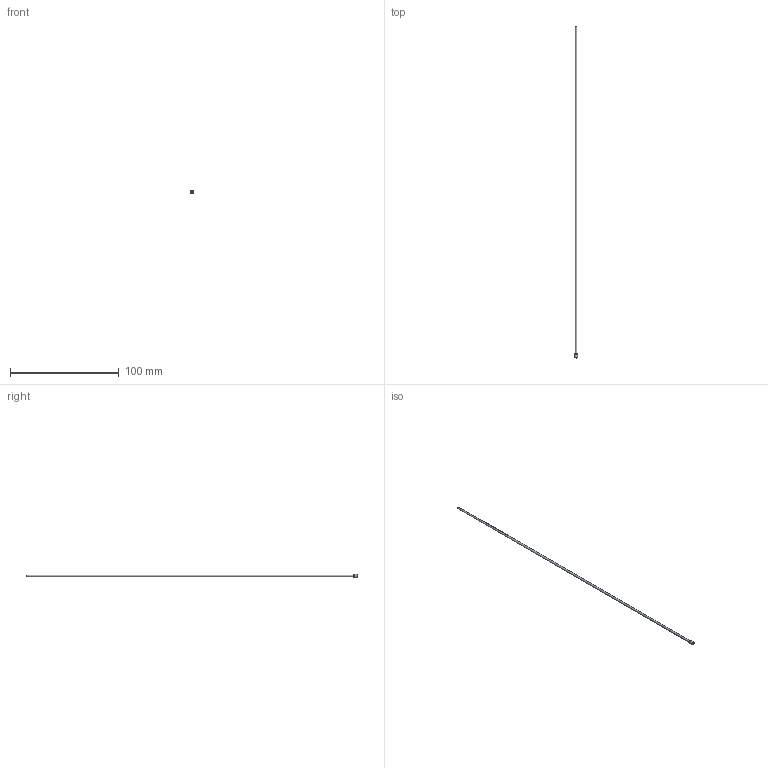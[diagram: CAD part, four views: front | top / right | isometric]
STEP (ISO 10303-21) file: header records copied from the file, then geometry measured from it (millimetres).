
FILE_DESCRIPTION(/* description */ (''),/* implementation_level */ '2;1');
FILE_NAME(/* name */ 'C:/Users/drich/Desktop/HF072T-12 v4.step',/* time_stamp */ '2019-12-30T13:25:59-06:00',/* author */ (''),/* organization */ (''),/* preprocessor_version */ 'ST-DEVELOPER v18',/* originating_system */ 'Autodesk Translation Framework v8.12.0.6',/* authorisation */ '');
FILE_SCHEMA (('AUTOMOTIVE_DESIGN { 1 0 10303 214 3 1 1 }'));
Length unit declared in the file: inch
Products named in the file (1): HF072T-12
Bounding box: 3.23 x 304.8 x 3.23 mm (x, y, z)
Volume: 262.2 mm3; surface area: 3235.3 mm2
Topology: 1 solids, 1 shells, 11 faces, 27 edges, 20 vertices
Faces by surface type: cylinder 4, plane 4, torus 2, cone 1
Full cylindrical faces by diameter (mm): 1.524 x1, 1.829 x1, 3.096 x1, 3.226 x1
Entity records: 390 total; most frequent: DIRECTION 73, CARTESIAN_POINT 59, ORIENTED_EDGE 54, AXIS2_PLACEMENT_3D 34, EDGE_CURVE 27, CIRCLE 22, VERTEX_POINT 20, EDGE_LOOP 15
